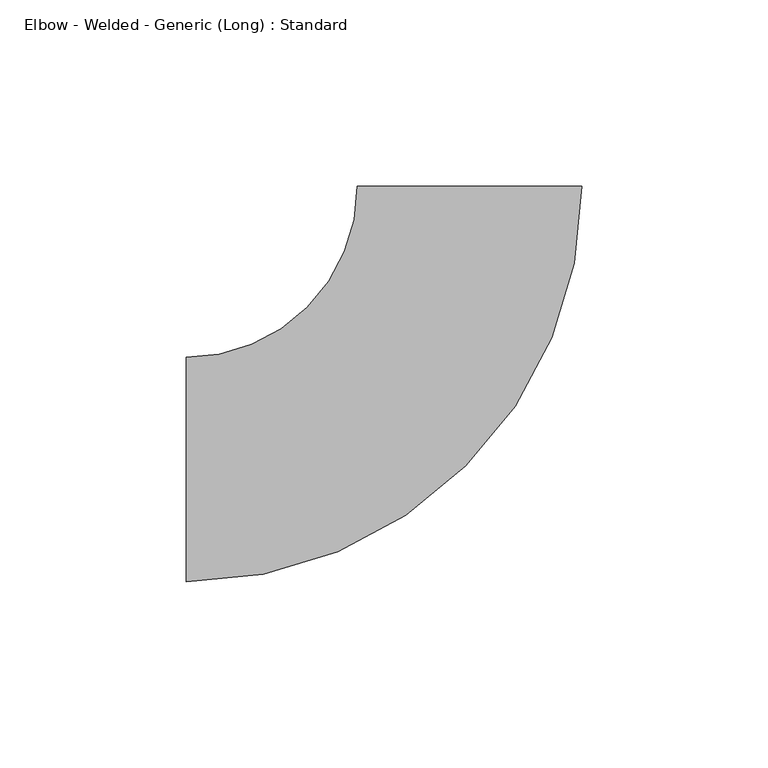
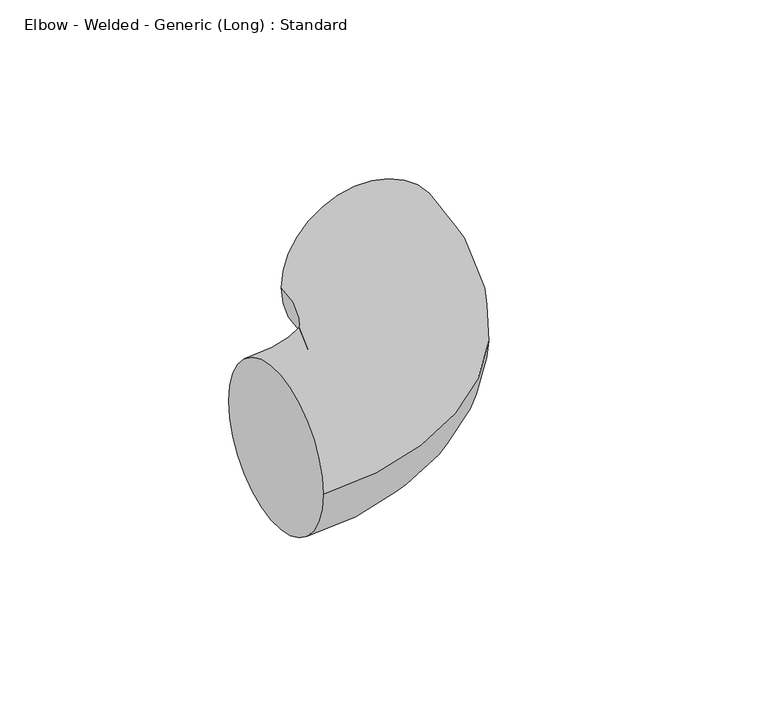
"""IFC4 building model written with IfcOpenShell, lengths in millimetres: pipe fitting geometry, Elbow - Welded - Generic (Long) : Standard."""

import ifcopenshell
import ifcopenshell.guid

model = None  # the IFC model being written
_history = None  # IfcOwnerHistory: only IFC2X3 demands one
_inside = {}  # id of a spatial element -> (the spatial element, [elements in it])
_under = {}  # id of a project, library or spatial element -> (it, [spatial elements below it])
_declared = {}  # id of a project -> (the project, [libraries it declares])
_typed = {}  # id of a type object -> (the type object, [elements of that type])
_made_of = {}  # id of a material, layer set ... -> (it, [elements and type objects made of it])


def new_model(schema):
    """Start an empty IFC model of exactly this schema.

    Asked for "IFC4X3", IfcOpenShell would pick the latest addendum, in which some entities
    have other attributes; the version numbers below select the first issue.
    IFC2X3 requires an IfcOwnerHistory on every rooted entity: one is made here for all.
    """
    global model, _history
    if schema == "IFC4X3":
        model = ifcopenshell.file(schema_version=(4, 3, 0, 0))
    else:
        model = ifcopenshell.file(schema=schema)
    _inside.clear()
    _under.clear()
    _declared.clear()
    _typed.clear()
    _made_of.clear()
    _history = None
    if model.schema == "IFC2X3":
        org = make("IfcOrganization", Name="unknown")
        user = make(
            "IfcPersonAndOrganization",
            ThePerson=make("IfcPerson", FamilyName="unknown"),
            TheOrganization=org,
        )
        app = make(
            "IfcApplication",
            ApplicationDeveloper=org,
            Version="unknown",
            ApplicationFullName="unknown",
            ApplicationIdentifier="unknown",
        )
        _history = make(
            "IfcOwnerHistory",
            OwningUser=user,
            OwningApplication=app,
            ChangeAction="ADDED",
            CreationDate=0,
        )
    return model


def make(cls, **values):
    """One entity of the class cls with the attributes given. An attribute that is None is left unset."""
    return model.create_entity(
        cls, **{name: value for name, value in values.items() if value is not None}
    )


def rooted(cls, **values):
    """An entity with a GlobalId (a new one), such as an element, a storey or a relation."""
    return make(cls, GlobalId=ifcopenshell.guid.new(), OwnerHistory=_history, **values)


def si_unit(unit_type, name, prefix=None):
    """IfcSIUnit, for example si_unit("LENGTHUNIT", "METRE", prefix="MILLI")."""
    return make("IfcSIUnit", UnitType=unit_type, Prefix=prefix, Name=name)


def assignment(units):
    """IfcUnitAssignment: the units of a project."""
    return None if units is None else make("IfcUnitAssignment", Units=units)


def point(xyz):
    """IfcCartesianPoint."""
    return None if xyz is None else make("IfcCartesianPoint", Coordinates=xyz)


def direction(xyz):
    """IfcDirection."""
    return None if xyz is None else make("IfcDirection", DirectionRatios=xyz)


def frame(location, z_axis=None, x_axis=None):
    """IfcAxis2Placement3D, a coordinate frame: its origin and axes. An axis left out is left unset."""
    return make(
        "IfcAxis2Placement3D",
        Location=point(location),
        Axis=direction(z_axis),
        RefDirection=direction(x_axis),
    )


def origin():
    """The frame at (0, 0, 0) with its axes left unset."""
    return frame((0.0, 0.0, 0.0))


def place(relative_to, where):
    """IfcLocalPlacement: puts the frame where relative to a parent placement (None: the world)."""
    return make(
        "IfcLocalPlacement", PlacementRelTo=relative_to, RelativePlacement=where
    )


def context(
    kind, dimensions, precision=None, world=None, true_north=None, identifier=None
):
    """IfcGeometricRepresentationContext, for example the 3D "Model" context."""
    return make(
        "IfcGeometricRepresentationContext",
        ContextIdentifier=identifier,
        ContextType=kind,
        CoordinateSpaceDimension=dimensions,
        Precision=precision,
        WorldCoordinateSystem=world,
        TrueNorth=true_north,
    )


def project(units=None, contexts=None):
    """IfcProject with its units and contexts."""
    return rooted(
        "IfcProject",
        Name="project",
        RepresentationContexts=contexts,
        UnitsInContext=assignment(units),
    )


def spatial(cls, under=None, at=None, **own):
    """A site, building, storey or space (cls), placed at a placement, below another one or the project."""
    s = rooted(cls, ObjectPlacement=at, **own)
    if under is not None:
        _under.setdefault(under.id(), (under, []))[1].append(s)
    return s


def circle_curve(where, radius):
    """IfcCircle in the frame where."""
    return make("IfcCircle", Position=where, Radius=radius)


def ellipse_curve(where, semi_axis1, semi_axis2):
    """IfcEllipse in the frame where."""
    return make(
        "IfcEllipse", Position=where, SemiAxis1=semi_axis1, SemiAxis2=semi_axis2
    )


def trimmed(basis, trim1, trim2, sense, master):
    """IfcTrimmedCurve: the piece of a basis curve between two trims."""
    return make(
        "IfcTrimmedCurve",
        BasisCurve=basis,
        Trim1=trim1,
        Trim2=trim2,
        SenseAgreement=sense,
        MasterRepresentation=master,
    )


def shape(context_of_items, identifier, shape_type, items):
    """IfcShapeRepresentation: the items that make up one representation, for example the "Body"."""
    return make(
        "IfcShapeRepresentation",
        ContextOfItems=context_of_items,
        RepresentationIdentifier=identifier,
        RepresentationType=shape_type,
        Items=items,
    )


def source(mapping_origin, context_of_items, identifier, shape_type, items):
    """IfcRepresentationMap: a shape defined once, which mapped items show again and again."""
    return make(
        "IfcRepresentationMap",
        MappingOrigin=mapping_origin,
        MappedRepresentation=shape(context_of_items, identifier, shape_type, items),
    )


def transform(
    local_origin,
    x_axis=None,
    y_axis=None,
    z_axis=None,
    scale=None,
    scale2=None,
    scale3=None,
    uniform=True,
):
    """IfcCartesianTransformationOperator3D, or its non-uniform kind. x_axis, y_axis, z_axis: its Axis1, 2, 3."""
    if uniform:
        return make(
            "IfcCartesianTransformationOperator3D",
            Axis1=direction(x_axis),
            Axis2=direction(y_axis),
            LocalOrigin=point(local_origin),
            Scale=scale,
            Axis3=direction(z_axis),
        )
    return make(
        "IfcCartesianTransformationOperator3DnonUniform",
        Axis1=direction(x_axis),
        Axis2=direction(y_axis),
        LocalOrigin=point(local_origin),
        Scale=scale,
        Axis3=direction(z_axis),
        Scale2=scale2,
        Scale3=scale3,
    )


def mapped(mapping_source, mapping_target):
    """IfcMappedItem: shows the shape of a source again, moved by a transform."""
    return make(
        "IfcMappedItem", MappingSource=mapping_source, MappingTarget=mapping_target
    )


def made_of(thing, what):
    """Note that an element or type object is made of a material, layer set ...; save() writes the relation."""
    if what is not None:
        _made_of.setdefault(what.id(), (what, []))[1].append(thing)
    return thing


def element(
    cls,
    number,
    at=None,
    inside=None,
    cuts=None,
    type_object=None,
    material=None,
    context=None,
    identifier="Body",
    shape_type=None,
    held_by="IfcProductDefinitionShape",
    body=None,
    shapes=None,
    **own,
):
    """One element of the class cls, such as IfcWall. Its Tag is "e" and its number.

    at: its placement. inside: the storey or other place that contains it. cuts: it is an
    opening in that element (IfcRelVoidsElement). A single representation is given by context,
    identifier, shape_type and body (its items); several are given by shapes. held_by: the class
    of the entity that holds the representations. save() writes the other relations.
    """
    e = rooted(cls, Tag="e%d" % number, ObjectPlacement=at, **own)
    if body is not None:
        shapes = [shape(context, identifier, shape_type, body)]
    if shapes is not None:
        e.Representation = make(held_by, Representations=shapes)
    if inside is not None:
        _inside.setdefault(inside.id(), (inside, []))[1].append(e)
    if cuts is not None:
        rooted(
            "IfcRelVoidsElement", RelatingBuildingElement=cuts, RelatedOpeningElement=e
        )
    if type_object is not None:
        _typed.setdefault(type_object.id(), (type_object, []))[1].append(e)
    return made_of(e, material)


def aggregate(whole, parts):
    """IfcRelAggregates: a whole, such as a stair, and the parts it consists of."""
    return rooted("IfcRelAggregates", RelatingObject=whole, RelatedObjects=parts)


def save(model, path):
    """Write the relations noted so far, then the file.

    IfcRelAggregates (storeys below a building ...), IfcRelContainedInSpatialStructure (elements
    in a storey), IfcRelDefinesByType, IfcRelAssociatesMaterial and IfcRelDeclares: one each for
    every whole, place, type object, material and project.
    """
    for whole, parts in _under.values():
        aggregate(whole, parts)
    for where, things in _inside.values():
        rooted(
            "IfcRelContainedInSpatialStructure",
            RelatedElements=things,
            RelatingStructure=where,
        )
    for kind, things in _typed.values():
        rooted("IfcRelDefinesByType", RelatedObjects=things, RelatingType=kind)
    for what, things in _made_of.values():
        rooted("IfcRelAssociatesMaterial", RelatedObjects=things, RelatingMaterial=what)
    for by, libraries in _declared.values():
        rooted("IfcRelDeclares", RelatingContext=by, RelatedDefinitions=libraries)
    model.write(path)


def plane_surface(at):
    """IfcPlane: the flat surface through the origin of the frame at, square to its z axis."""
    return make("IfcPlane", Position=at)


def revolved_surface(curve, axis_point, axis_direction):
    """IfcSurfaceOfRevolution: the curve turned about the line through axis_point along axis_direction."""
    return make(
        "IfcSurfaceOfRevolution",
        SweptCurve=make("IfcArbitraryOpenProfileDef", ProfileType="CURVE", Curve=curve),
        AxisPosition=make("IfcAxis1Placement", Location=point(axis_point), Axis=direction(axis_direction)),
    )


def advanced_brep(points, edges, surfaces, faces):
    """IfcAdvancedBrep: a solid bounded by faces that lie on surfaces and meet in shared edges.

    An edge is (start, end): straight between two places in points (the first is 0);
    or (start, end, curve); or (start, end, curve, False) where it runs against its curve.
    A face is (place in surfaces, loops), or (place, loops, False) where it looks against
    its surface's normal. A loop lists edges by number (the first is 1), with a minus sign
    where the edge is run from its end to its start. The first loop is the outer one.
    """
    corners = [point(p) for p in points]
    vertices = [make("IfcVertexPoint", VertexGeometry=c) for c in corners]
    made = []
    for start, end, *more in edges:
        made.append(
            make(
                "IfcEdgeCurve",
                EdgeStart=vertices[start],
                EdgeEnd=vertices[end],
                EdgeGeometry=more[0] if more else make("IfcPolyline", Points=[corners[start], corners[end]]),
                SameSense=more[1] if len(more) > 1 else True,
            )
        )
    hull = []
    for where, loops, *sense in faces:
        bounds = []
        for j, loop in enumerate(loops):
            ring = [make("IfcOrientedEdge", EdgeElement=made[abs(k) - 1], Orientation=k > 0) for k in loop]
            bounds.append(
                make(
                    "IfcFaceOuterBound" if j == 0 else "IfcFaceBound",
                    Bound=make("IfcEdgeLoop", EdgeList=ring),
                    Orientation=True,
                )
            )
        hull.append(make("IfcAdvancedFace", Bounds=bounds, FaceSurface=surfaces[where], SameSense=sense[0] if sense else True))
    return make("IfcAdvancedBrep", Outer=make("IfcClosedShell", CfsFaces=hull))


def elbow_welded_generic_long_standard_169bc178(model_context):
    return source(origin(), model_context, "Body", "AdvancedBrep", [
        advanced_brep(
        [(-76.2, -30.1625, 0.0), (-76.2, 30.1625, 0.0), (30.1804914, 76.192876, 0.0), (-30.144507, 76.2071198, 0.0)],
        [
            (0, 1, circle_curve(frame((-76.2, 0.0, 0.0), z_axis=(-1.0, 0.0, 0.0), x_axis=(0.0, 1.0, 0.0)), 30.1625)),
            (1, 0, circle_curve(frame((-76.2, 0.0, 0.0), z_axis=(-1.0, 0.0, 0.0), x_axis=(0.0, 1.0, 0.0)), 30.1625)),
            (2, 3, circle_curve(frame((0.0179922, 76.1999979, 0.0), z_axis=(0.00023611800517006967, 0.9999999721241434, 0.0), x_axis=(-0.9999999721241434, 0.00023611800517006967, 0.0)), 30.1625)),
            (3, 2, circle_curve(frame((0.0179922, 76.1999979, 0.0), z_axis=(0.00023611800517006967, 0.9999999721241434, 0.0), x_axis=(-0.9999999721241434, 0.00023611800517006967, 0.0)), 30.1625)),
            (3, 1, circle_curve(frame((-76.2, 76.2179943, 0.0), z_axis=(0.0, 0.0, -1.0), x_axis=(0.0, -1.0, 0.0)), 46.0554943)),
            (0, 2, circle_curve(frame((-76.2, 76.2179943, 0.0), z_axis=(0.0, 0.0, 1.0), x_axis=(0.0, -1.0, 0.0)), 106.3804943)),
        ],
        [
            plane_surface(frame((-76.2, 0.0, 0.0), z_axis=(-1.0, 0.0, 0.0), x_axis=(0.0, 0.0, 1.0))),
            plane_surface(frame((0.0179922, 76.1999979, 0.0), z_axis=(0.00023611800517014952, 0.9999999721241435, 0.0), x_axis=(0.0, 0.0, 1.0))),
            revolved_surface(trimmed(ellipse_curve(frame((-76.2, 0.0, 0.0), z_axis=(-1.0, 0.0, 0.0), x_axis=(0.0, 1.0, 0.0)), 30.1625, 30.1625), [point((-76.2, -30.1625, 0.0))], [point((-76.2, 30.1625, 0.0))], True, "CARTESIAN"), (-76.2, 76.2179943, 0.0), (0.0, 0.0, 1.0)),
            revolved_surface(trimmed(ellipse_curve(frame((-76.2, 0.0, 0.0), z_axis=(-1.0, 0.0, 0.0), x_axis=(0.0, 1.0, 0.0)), 30.1625, 30.1625), [point((-76.2, 30.1625, 0.0))], [point((-76.2, -30.1625, 0.0))], True, "CARTESIAN"), (-76.2, 76.2179943, 0.0), (0.0, 0.0, 1.0)),
        ],
        [
            (0, [[1, 2]]),
            (1, [[3, 4]]),
            (2, [[5, -1, 6, -4]]),
            (3, [[-6, -2, -5, -3]]),
        ],
    ),
    ])


if __name__ == "__main__":
    model = new_model("IFC4")
    model_context = context("Model", 3, world=origin())
    ifc_project = project(units=[si_unit("LENGTHUNIT", "METRE", prefix="MILLI")], contexts=[model_context])
    site = spatial("IfcSite", under=ifc_project)
    building = spatial("IfcBuilding", under=site)
    placement = place(None, origin())
    elbow_welded_generic_long_standard_shape = elbow_welded_generic_long_standard_169bc178(model_context)
    element("IfcPipeFitting", 1, ObjectType="Elbow - Welded - Generic (Long) : Standard", at=placement, inside=building, context=model_context, shape_type="MappedRepresentation", body=[
        mapped(elbow_welded_generic_long_standard_shape, transform((0.0, 0.0, 0.0), x_axis=(1.0, 0.0, 0.0), y_axis=(0.0, 1.0, 0.0), z_axis=(0.0, 0.0, 1.0))),
    ])
    save(model, "model.ifc")
